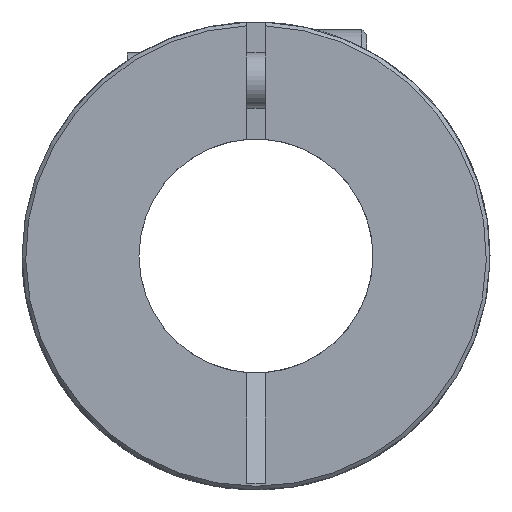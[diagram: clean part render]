
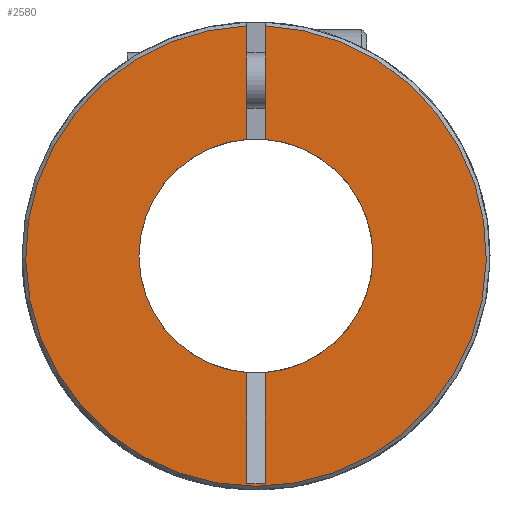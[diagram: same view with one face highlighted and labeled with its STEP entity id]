
A CAD part, front view. The second image highlights one B-rep face of the part: STEP entity #2580.
In plain terms, the highlighted planar face has unit normal (0, -1, 0).
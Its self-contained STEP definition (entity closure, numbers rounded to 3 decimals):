
#1=DIRECTION('',(0.,0.,-1.));
#2=VECTOR('',#1,6.16);
#3=CARTESIAN_POINT('',(-0.5,-19.05,12.49));
#4=LINE('',#3,#2);
#5=CARTESIAN_POINT('',(0.,-19.05,0.));
#6=DIRECTION('',(0.,1.,0.));
#7=DIRECTION('',(-1.,0.,0.));
#8=AXIS2_PLACEMENT_3D('',#5,#6,#7);
#10=CARTESIAN_POINT('',(0.,-19.05,0.));
#11=DIRECTION('',(0.,1.,0.));
#12=DIRECTION('',(-0.079,0.,-0.997));
#13=AXIS2_PLACEMENT_3D('',#10,#11,#12);
#15=DIRECTION('',(0.,0.,-1.));
#16=VECTOR('',#15,6.02);
#17=CARTESIAN_POINT('',(-0.5,-19.05,-6.33));
#18=LINE('',#17,#16);
#19=DIRECTION('',(1.,0.,0.));
#20=VECTOR('',#19,1.);
#21=CARTESIAN_POINT('',(-0.5,-19.05,-12.35));
#22=LINE('',#21,#20);
#23=DIRECTION('',(0.,0.,-1.));
#24=VECTOR('',#23,6.02);
#25=CARTESIAN_POINT('',(0.5,-19.05,-6.33));
#26=LINE('',#25,#24);
#27=DIRECTION('',(0.,0.,-1.));
#28=VECTOR('',#27,6.16);
#29=CARTESIAN_POINT('',(0.5,-19.05,12.49));
#30=LINE('',#29,#28);
#54=CARTESIAN_POINT('',(0.,-19.05,0.));
#55=DIRECTION('',(0.,1.,0.));
#56=DIRECTION('',(0.079,0.,0.997));
#57=AXIS2_PLACEMENT_3D('',#54,#55,#56);
#2102=CARTESIAN_POINT('',(0.,-19.05,0.));
#2103=DIRECTION('',(0.,-1.,0.));
#2104=DIRECTION('',(-0.04,0.,0.999));
#2105=AXIS2_PLACEMENT_3D('',#2102,#2103,#2104);
#2263=CARTESIAN_POINT('',(-6.35,-19.05,0.));
#2264=VERTEX_POINT('',#2263);
#2336=CARTESIAN_POINT('',(-0.5,-19.05,-12.35));
#2338=VERTEX_POINT('',#2336);
#2340=CARTESIAN_POINT('',(0.5,-19.05,-12.35));
#2342=VERTEX_POINT('',#2340);
#2387=CARTESIAN_POINT('',(-0.5,-19.05,12.49));
#2388=CARTESIAN_POINT('',(-0.5,-19.05,6.33));
#2389=VERTEX_POINT('',#2387);
#2390=VERTEX_POINT('',#2388);
#2391=CARTESIAN_POINT('',(-0.5,-19.05,-6.33));
#2392=VERTEX_POINT('',#2391);
#2393=CARTESIAN_POINT('',(0.5,-19.05,12.49));
#2394=CARTESIAN_POINT('',(0.5,-19.05,6.33));
#2395=VERTEX_POINT('',#2393);
#2396=VERTEX_POINT('',#2394);
#2397=CARTESIAN_POINT('',(0.5,-19.05,-6.33));
#2398=VERTEX_POINT('',#2397);
#2555=CARTESIAN_POINT('',(0.,-19.05,0.));
#2556=DIRECTION('',(0.,1.,0.));
#2557=DIRECTION('',(1.,0.,0.));
#2558=AXIS2_PLACEMENT_3D('',#2555,#2556,#2557);
#2559=PLANE('',#2558);
#2561=ORIENTED_EDGE('',*,*,#2560,.T.);
#2563=ORIENTED_EDGE('',*,*,#2562,.F.);
#2565=ORIENTED_EDGE('',*,*,#2564,.F.);
#2567=ORIENTED_EDGE('',*,*,#2566,.T.);
#2569=ORIENTED_EDGE('',*,*,#2568,.T.);
#2571=ORIENTED_EDGE('',*,*,#2570,.F.);
#2573=ORIENTED_EDGE('',*,*,#2572,.F.);
#2575=ORIENTED_EDGE('',*,*,#2574,.F.);
#2577=ORIENTED_EDGE('',*,*,#2576,.F.);
#2578=EDGE_LOOP('',(#2561,#2563,#2565,#2567,#2569,#2571,#2573,#2575,#2577));
#2579=FACE_OUTER_BOUND('',#2578,.F.);
#2580=ADVANCED_FACE('',(#2579),#2559,.F.);
#9=CIRCLE('',#8,6.35);
#14=CIRCLE('',#13,6.35);
#58=CIRCLE('',#57,6.35);
#2106=CIRCLE('',#2105,12.5);
#2560=EDGE_CURVE('',#2389,#2390,#4,.T.);
#2562=EDGE_CURVE('',#2264,#2390,#9,.T.);
#2564=EDGE_CURVE('',#2392,#2264,#14,.T.);
#2566=EDGE_CURVE('',#2392,#2338,#18,.T.);
#2568=EDGE_CURVE('',#2338,#2342,#22,.T.);
#2570=EDGE_CURVE('',#2398,#2342,#26,.T.);
#2572=EDGE_CURVE('',#2396,#2398,#58,.T.);
#2574=EDGE_CURVE('',#2395,#2396,#30,.T.);
#2576=EDGE_CURVE('',#2389,#2395,#2106,.T.);
